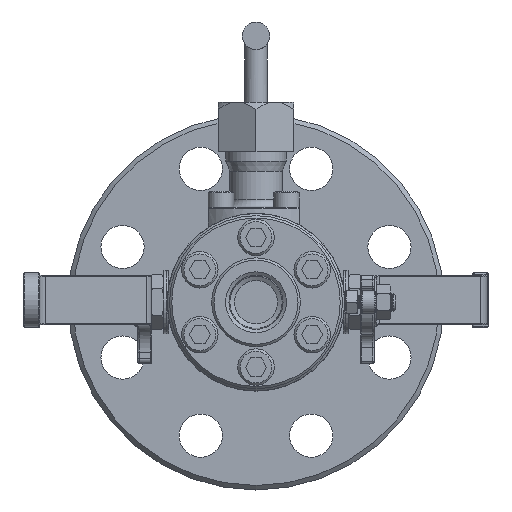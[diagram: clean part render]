
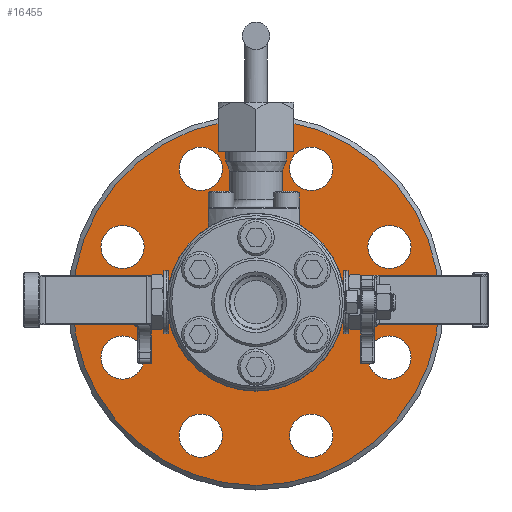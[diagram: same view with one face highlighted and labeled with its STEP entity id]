
A CAD part, left-side view. The second image highlights one B-rep face of the part: STEP entity #16455.
In plain terms, the highlighted planar face has unit normal (-1, 0, 0).
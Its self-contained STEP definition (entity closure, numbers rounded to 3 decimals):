
#678=FACE_BOUND('',#2535,.T.);
#679=FACE_BOUND('',#2536,.T.);
#680=FACE_BOUND('',#2537,.T.);
#681=FACE_BOUND('',#2538,.T.);
#682=FACE_BOUND('',#2539,.T.);
#683=FACE_BOUND('',#2540,.T.);
#684=FACE_BOUND('',#2541,.T.);
#685=FACE_BOUND('',#2542,.T.);
#686=FACE_BOUND('',#2543,.T.);
#868=PLANE('',#17597);
#1566=FACE_OUTER_BOUND('',#2534,.T.);
#2534=EDGE_LOOP('',(#11676,#11677));
#2535=EDGE_LOOP('',(#11678));
#2536=EDGE_LOOP('',(#11679));
#2537=EDGE_LOOP('',(#11680));
#2538=EDGE_LOOP('',(#11681));
#2539=EDGE_LOOP('',(#11682));
#2540=EDGE_LOOP('',(#11683));
#2541=EDGE_LOOP('',(#11684));
#2542=EDGE_LOOP('',(#11685));
#2543=EDGE_LOOP('',(#11686,#11687));
#5756=CIRCLE('',#17521,9.5);
#5758=CIRCLE('',#17524,9.5);
#5760=CIRCLE('',#17527,9.5);
#5762=CIRCLE('',#17530,9.5);
#5764=CIRCLE('',#17533,9.5);
#5766=CIRCLE('',#17536,9.5);
#5768=CIRCLE('',#17539,9.5);
#5770=CIRCLE('',#17542,9.5);
#5774=CIRCLE('',#17550,39.097);
#5779=CIRCLE('',#17555,39.097);
#5807=CIRCLE('',#17595,80.55);
#5808=CIRCLE('',#17596,80.55);
#6829=VERTEX_POINT('',#24710);
#6831=VERTEX_POINT('',#24716);
#6833=VERTEX_POINT('',#24722);
#6835=VERTEX_POINT('',#24728);
#6837=VERTEX_POINT('',#24734);
#6839=VERTEX_POINT('',#24740);
#6841=VERTEX_POINT('',#24746);
#6843=VERTEX_POINT('',#24752);
#6847=VERTEX_POINT('',#24768);
#6848=VERTEX_POINT('',#24769);
#6877=VERTEX_POINT('',#24850);
#6878=VERTEX_POINT('',#24851);
#8637=EDGE_CURVE('',#6829,#6829,#5756,.T.);
#8640=EDGE_CURVE('',#6831,#6831,#5758,.T.);
#8643=EDGE_CURVE('',#6833,#6833,#5760,.T.);
#8646=EDGE_CURVE('',#6835,#6835,#5762,.T.);
#8649=EDGE_CURVE('',#6837,#6837,#5764,.T.);
#8652=EDGE_CURVE('',#6839,#6839,#5766,.T.);
#8655=EDGE_CURVE('',#6841,#6841,#5768,.T.);
#8658=EDGE_CURVE('',#6843,#6843,#5770,.T.);
#8665=EDGE_CURVE('',#6847,#6848,#5774,.T.);
#8670=EDGE_CURVE('',#6848,#6847,#5779,.T.);
#8705=EDGE_CURVE('',#6877,#6878,#5807,.T.);
#8706=EDGE_CURVE('',#6878,#6877,#5808,.T.);
#11676=ORIENTED_EDGE('',*,*,#8705,.T.);
#11677=ORIENTED_EDGE('',*,*,#8706,.T.);
#11678=ORIENTED_EDGE('',*,*,#8637,.T.);
#11679=ORIENTED_EDGE('',*,*,#8640,.T.);
#11680=ORIENTED_EDGE('',*,*,#8643,.T.);
#11681=ORIENTED_EDGE('',*,*,#8646,.T.);
#11682=ORIENTED_EDGE('',*,*,#8649,.T.);
#11683=ORIENTED_EDGE('',*,*,#8652,.T.);
#11684=ORIENTED_EDGE('',*,*,#8655,.T.);
#11685=ORIENTED_EDGE('',*,*,#8658,.T.);
#11686=ORIENTED_EDGE('',*,*,#8665,.F.);
#11687=ORIENTED_EDGE('',*,*,#8670,.F.);
#16455=ADVANCED_FACE('',(#1566,#678,#679,#680,#681,#682,#683,#684,#685,
#686),#868,.T.);
#17521=AXIS2_PLACEMENT_3D('',#24712,#19837,#19838);
#17524=AXIS2_PLACEMENT_3D('',#24718,#19844,#19845);
#17527=AXIS2_PLACEMENT_3D('',#24724,#19851,#19852);
#17530=AXIS2_PLACEMENT_3D('',#24730,#19858,#19859);
#17533=AXIS2_PLACEMENT_3D('',#24736,#19865,#19866);
#17536=AXIS2_PLACEMENT_3D('',#24742,#19872,#19873);
#17539=AXIS2_PLACEMENT_3D('',#24748,#19879,#19880);
#17542=AXIS2_PLACEMENT_3D('',#24754,#19886,#19887);
#17550=AXIS2_PLACEMENT_3D('',#24770,#19905,#19906);
#17555=AXIS2_PLACEMENT_3D('',#24778,#19915,#19916);
#17595=AXIS2_PLACEMENT_3D('',#24852,#20002,#20003);
#17596=AXIS2_PLACEMENT_3D('',#24853,#20004,#20005);
#17597=AXIS2_PLACEMENT_3D('',#24855,#20007,#20008);
#19837=DIRECTION('center_axis',(1.,0.,0.));
#19838=DIRECTION('ref_axis',(0.,0.,-1.));
#19844=DIRECTION('center_axis',(1.,0.,0.));
#19845=DIRECTION('ref_axis',(0.,0.,-1.));
#19851=DIRECTION('center_axis',(1.,0.,0.));
#19852=DIRECTION('ref_axis',(0.,0.,-1.));
#19858=DIRECTION('center_axis',(1.,0.,0.));
#19859=DIRECTION('ref_axis',(0.,0.,-1.));
#19865=DIRECTION('center_axis',(1.,0.,0.));
#19866=DIRECTION('ref_axis',(0.,0.,-1.));
#19872=DIRECTION('center_axis',(1.,0.,0.));
#19873=DIRECTION('ref_axis',(0.,0.,-1.));
#19879=DIRECTION('center_axis',(1.,0.,0.));
#19880=DIRECTION('ref_axis',(0.,0.,-1.));
#19886=DIRECTION('center_axis',(1.,0.,0.));
#19887=DIRECTION('ref_axis',(0.,0.,-1.));
#19905=DIRECTION('center_axis',(-1.,0.,0.));
#19906=DIRECTION('ref_axis',(0.,-1.,0.));
#19915=DIRECTION('center_axis',(-1.,0.,0.));
#19916=DIRECTION('ref_axis',(0.,-1.,0.));
#20002=DIRECTION('center_axis',(-1.,0.,0.));
#20003=DIRECTION('ref_axis',(0.,-1.,0.));
#20004=DIRECTION('center_axis',(-1.,0.,0.));
#20005=DIRECTION('ref_axis',(0.,-1.,0.));
#20007=DIRECTION('center_axis',(-1.,0.,0.));
#20008=DIRECTION('ref_axis',(0.,-1.,0.));
#24710=CARTESIAN_POINT('',(2610.118,1048.646,33.8));
#24712=CARTESIAN_POINT('Origin',(2610.118,1048.646,24.3));
#24716=CARTESIAN_POINT('',(2610.118,1048.646,-14.8));
#24718=CARTESIAN_POINT('Origin',(2610.118,1048.646,-24.3));
#24722=CARTESIAN_POINT('',(2610.118,1165.979,33.8));
#24724=CARTESIAN_POINT('Origin',(2610.118,1165.979,24.3));
#24728=CARTESIAN_POINT('',(2610.118,1131.613,-49.166));
#24730=CARTESIAN_POINT('Origin',(2610.118,1131.613,-58.666));
#24734=CARTESIAN_POINT('',(2610.118,1165.979,-14.8));
#24736=CARTESIAN_POINT('Origin',(2610.118,1165.979,-24.3));
#24740=CARTESIAN_POINT('',(2610.118,1131.613,68.166));
#24742=CARTESIAN_POINT('Origin',(2610.118,1131.613,58.666));
#24746=CARTESIAN_POINT('',(2610.118,1083.012,-49.166));
#24748=CARTESIAN_POINT('Origin',(2610.118,1083.012,-58.666));
#24752=CARTESIAN_POINT('',(2610.118,1083.012,68.166));
#24754=CARTESIAN_POINT('Origin',(2610.118,1083.012,58.666));
#24768=CARTESIAN_POINT('',(2610.118,1107.312,39.097));
#24769=CARTESIAN_POINT('',(2610.118,1146.409,0.));
#24770=CARTESIAN_POINT('Origin',(2610.118,1107.312,0.));
#24778=CARTESIAN_POINT('Origin',(2610.118,1107.312,0.));
#24850=CARTESIAN_POINT('',(2610.118,1107.312,80.55));
#24851=CARTESIAN_POINT('',(2610.118,1107.312,-80.55));
#24852=CARTESIAN_POINT('Origin',(2610.118,1107.312,0.));
#24853=CARTESIAN_POINT('Origin',(2610.118,1107.312,0.));
#24855=CARTESIAN_POINT('Origin',(2610.118,1107.312,39.097));
